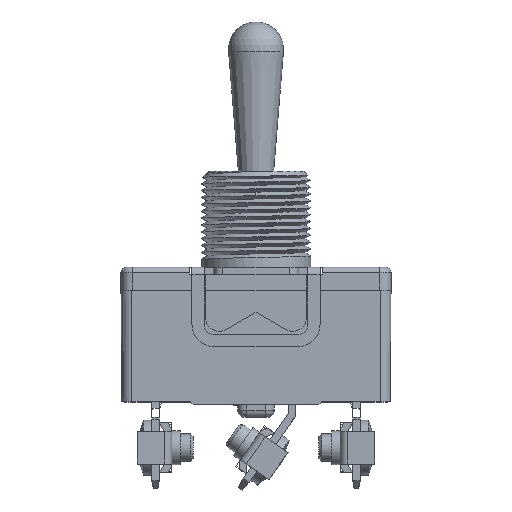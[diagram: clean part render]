
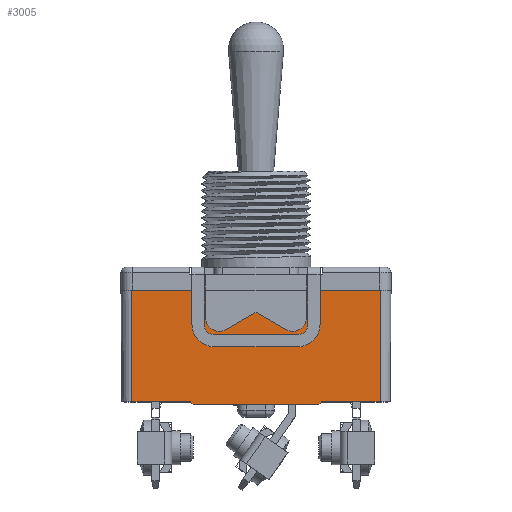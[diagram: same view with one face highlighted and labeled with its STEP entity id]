
A CAD part, top view. The second image highlights one B-rep face of the part: STEP entity #3005.
In plain terms, the highlighted planar face has unit normal (0, -0.009, 1).
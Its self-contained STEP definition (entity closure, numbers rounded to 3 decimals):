
#125=DIRECTION('',(1.,0.,0.));
#126=VECTOR('',#125,13.7);
#127=CARTESIAN_POINT('',(-6.85,-12.5,5.891));
#128=LINE('',#127,#126);
#333=DIRECTION('',(-0.707,0.707,0.006));
#334=VECTOR('',#333,0.424);
#335=CARTESIAN_POINT('',(-6.85,-12.5,5.891));
#336=LINE('',#335,#334);
#399=DIRECTION('',(-1.,0.,0.));
#400=VECTOR('',#399,6.4);
#401=CARTESIAN_POINT('',(-7.15,-12.2,5.894));
#402=LINE('',#401,#400);
#411=DIRECTION('',(0.707,0.707,0.006));
#412=VECTOR('',#411,0.424);
#413=CARTESIAN_POINT('',(6.85,-12.5,5.891));
#414=LINE('',#413,#412);
#516=DIRECTION('',(1.,0.,0.));
#517=VECTOR('',#516,6.4);
#518=CARTESIAN_POINT('',(7.15,-12.2,5.894));
#519=LINE('',#518,#517);
#1268=DIRECTION('',(0.,1.,0.009));
#1269=VECTOR('',#1268,12.2);
#1270=CARTESIAN_POINT('',(-13.55,-12.2,5.894));
#1271=LINE('',#1270,#1269);
#1272=DIRECTION('',(1.,0.,0.));
#1273=VECTOR('',#1272,8.253);
#1274=CARTESIAN_POINT('',(-13.55,0.,6.));
#1275=LINE('',#1274,#1273);
#1276=DIRECTION('',(0.002,-1.,-0.009));
#1277=VECTOR('',#1276,3.);
#1278=CARTESIAN_POINT('',(-5.297,0.,6.));
#1279=LINE('',#1278,#1277);
#1280=CARTESIAN_POINT('',(-5.291,-3.,5.974));
#1281=CARTESIAN_POINT('',(-5.291,-3.093,
5.973));
#1282=CARTESIAN_POINT('',(-5.273,-3.247,
5.972));
#1283=CARTESIAN_POINT('',(-5.22,-3.435,
5.97));
#1284=CARTESIAN_POINT('',(-5.15,-3.593,
5.969));
#1285=CARTESIAN_POINT('',(-5.04,-3.775,
5.967));
#1286=CARTESIAN_POINT('',(-4.877,-3.959,
5.965));
#1287=CARTESIAN_POINT('',(-4.65,-4.125,
5.964));
#1288=CARTESIAN_POINT('',(-4.393,-4.238,
5.963));
#1289=CARTESIAN_POINT('',(-4.153,-4.287,
5.963));
#1290=CARTESIAN_POINT('',(-3.94,-4.291,
5.963));
#1291=CARTESIAN_POINT('',(-3.768,-4.272,
5.963));
#1292=CARTESIAN_POINT('',(-3.579,-4.224,
5.963));
#1293=CARTESIAN_POINT('',(-3.436,-4.163,
5.964));
#1294=CARTESIAN_POINT('',(-3.355,-4.117,
5.964));
#1296=DIRECTION('',(0.866,0.499,0.004));
#1297=VECTOR('',#1296,3.873);
#1298=CARTESIAN_POINT('',(-3.355,-4.117,
5.964));
#1299=LINE('',#1298,#1297);
#1300=DIRECTION('',(-0.866,0.499,0.004));
#1301=VECTOR('',#1300,3.873);
#1302=CARTESIAN_POINT('',(3.355,-4.117,5.964));
#1303=LINE('',#1302,#1301);
#1304=CARTESIAN_POINT('',(3.355,-4.117,5.964));
#1305=CARTESIAN_POINT('',(3.436,-4.163,5.964));
#1306=CARTESIAN_POINT('',(3.579,-4.224,5.963));
#1307=CARTESIAN_POINT('',(3.768,-4.272,5.963));
#1308=CARTESIAN_POINT('',(3.94,-4.291,5.963));
#1309=CARTESIAN_POINT('',(4.153,-4.287,5.963));
#1310=CARTESIAN_POINT('',(4.393,-4.238,5.963));
#1311=CARTESIAN_POINT('',(4.65,-4.125,5.964));
#1312=CARTESIAN_POINT('',(4.877,-3.959,5.965));
#1313=CARTESIAN_POINT('',(5.04,-3.775,5.967));
#1314=CARTESIAN_POINT('',(5.15,-3.593,5.969));
#1315=CARTESIAN_POINT('',(5.22,-3.435,5.97));
#1316=CARTESIAN_POINT('',(5.273,-3.247,5.972));
#1317=CARTESIAN_POINT('',(5.291,-3.093,5.973));
#1318=CARTESIAN_POINT('',(5.291,-3.,5.974));
#1320=DIRECTION('',(0.002,1.,0.009));
#1321=VECTOR('',#1320,3.);
#1322=CARTESIAN_POINT('',(5.291,-3.,5.974));
#1323=LINE('',#1322,#1321);
#1324=DIRECTION('',(1.,0.,0.));
#1325=VECTOR('',#1324,8.253);
#1326=CARTESIAN_POINT('',(5.297,0.,6.));
#1327=LINE('',#1326,#1325);
#1333=DIRECTION('',(0.,1.,0.009));
#1334=VECTOR('',#1333,12.2);
#1335=CARTESIAN_POINT('',(13.55,-12.2,5.894));
#1336=LINE('',#1335,#1334);
#1927=VERTEX_POINT('',#1318);
#1928=VERTEX_POINT('',#1304);
#1929=VERTEX_POINT('',#1280);
#1930=VERTEX_POINT('',#1294);
#1931=CARTESIAN_POINT('',(0.,-2.183,5.981));
#1932=VERTEX_POINT('',#1931);
#1934=CARTESIAN_POINT('',(-6.85,-12.5,5.891));
#1936=VERTEX_POINT('',#1934);
#1938=CARTESIAN_POINT('',(-7.15,-12.2,5.894));
#1940=VERTEX_POINT('',#1938);
#1942=CARTESIAN_POINT('',(7.15,-12.2,5.894));
#1944=VERTEX_POINT('',#1942);
#1946=CARTESIAN_POINT('',(6.85,-12.5,5.891));
#1948=VERTEX_POINT('',#1946);
#1953=CARTESIAN_POINT('',(5.297,0.,6.));
#1954=VERTEX_POINT('',#1953);
#1955=CARTESIAN_POINT('',(-5.297,0.,6.));
#1956=VERTEX_POINT('',#1955);
#1969=CARTESIAN_POINT('',(-13.55,-12.2,5.894));
#1970=CARTESIAN_POINT('',(-13.55,0.,6.));
#1971=VERTEX_POINT('',#1969);
#1972=VERTEX_POINT('',#1970);
#1981=CARTESIAN_POINT('',(13.55,-12.2,5.894));
#1982=CARTESIAN_POINT('',(13.55,0.,6.));
#1983=VERTEX_POINT('',#1981);
#1984=VERTEX_POINT('',#1982);
#2976=CARTESIAN_POINT('',(-14.976,0.,6.));
#2977=DIRECTION('',(0.,-0.009,1.));
#2978=DIRECTION('',(1.,0.,0.));
#2979=AXIS2_PLACEMENT_3D('',#2976,#2977,#2978);
#2980=PLANE('',#2979);
#2981=ORIENTED_EDGE('',*,*,#2038,.F.);
#2982=ORIENTED_EDGE('',*,*,#2348,.T.);
#2983=ORIENTED_EDGE('',*,*,#2367,.T.);
#2984=ORIENTED_EDGE('',*,*,#2969,.T.);
#2986=ORIENTED_EDGE('',*,*,#2985,.T.);
#2988=ORIENTED_EDGE('',*,*,#2987,.T.);
#2990=ORIENTED_EDGE('',*,*,#2989,.T.);
#2991=ORIENTED_EDGE('',*,*,#2331,.T.);
#2992=ORIENTED_EDGE('',*,*,#2317,.F.);
#2994=ORIENTED_EDGE('',*,*,#2993,.T.);
#2996=ORIENTED_EDGE('',*,*,#2995,.T.);
#2998=ORIENTED_EDGE('',*,*,#2997,.T.);
#3000=ORIENTED_EDGE('',*,*,#2999,.F.);
#3001=ORIENTED_EDGE('',*,*,#2424,.F.);
#3002=ORIENTED_EDGE('',*,*,#2407,.F.);
#3003=EDGE_LOOP('',(#2981,#2982,#2983,#2984,#2986,#2988,#2990,#2991,#2992,#2994,
#2996,#2998,#3000,#3001,#3002));
#3004=FACE_OUTER_BOUND('',#3003,.F.);
#1295=B_SPLINE_CURVE_WITH_KNOTS('',3,(#1280,#1281,#1282,#1283,#1284,#1285,#1286,
#1287,#1288,#1289,#1290,#1291,#1292,#1293,#1294),.UNSPECIFIED.,.F.,.F.,(4,1,1,1,
1,1,1,1,1,1,1,1,4),(0.,0.063,0.125,0.188,0.25,0.375,0.5,0.625,
0.75,0.813,0.875,0.938,1.),.UNSPECIFIED.);
#1319=B_SPLINE_CURVE_WITH_KNOTS('',3,(#1304,#1305,#1306,#1307,#1308,#1309,#1310,
#1311,#1312,#1313,#1314,#1315,#1316,#1317,#1318),.UNSPECIFIED.,.F.,.F.,(4,1,1,1,
1,1,1,1,1,1,1,1,4),(0.,0.063,0.125,0.188,0.25,0.375,0.5,0.625,
0.75,0.813,0.875,0.938,1.),.UNSPECIFIED.);
#2038=EDGE_CURVE('',#1936,#1948,#128,.T.);
#2317=EDGE_CURVE('',#1928,#1932,#1303,.T.);
#2331=EDGE_CURVE('',#1930,#1932,#1299,.T.);
#2348=EDGE_CURVE('',#1936,#1940,#336,.T.);
#2367=EDGE_CURVE('',#1940,#1971,#402,.T.);
#2407=EDGE_CURVE('',#1948,#1944,#414,.T.);
#2424=EDGE_CURVE('',#1944,#1983,#519,.T.);
#2969=EDGE_CURVE('',#1971,#1972,#1271,.T.);
#2985=EDGE_CURVE('',#1972,#1956,#1275,.T.);
#2987=EDGE_CURVE('',#1956,#1929,#1279,.T.);
#2989=EDGE_CURVE('',#1929,#1930,#1295,.T.);
#2993=EDGE_CURVE('',#1928,#1927,#1319,.T.);
#2995=EDGE_CURVE('',#1927,#1954,#1323,.T.);
#2997=EDGE_CURVE('',#1954,#1984,#1327,.T.);
#2999=EDGE_CURVE('',#1983,#1984,#1336,.T.);
#3005=ADVANCED_FACE('',(#3004),#2980,.T.);
